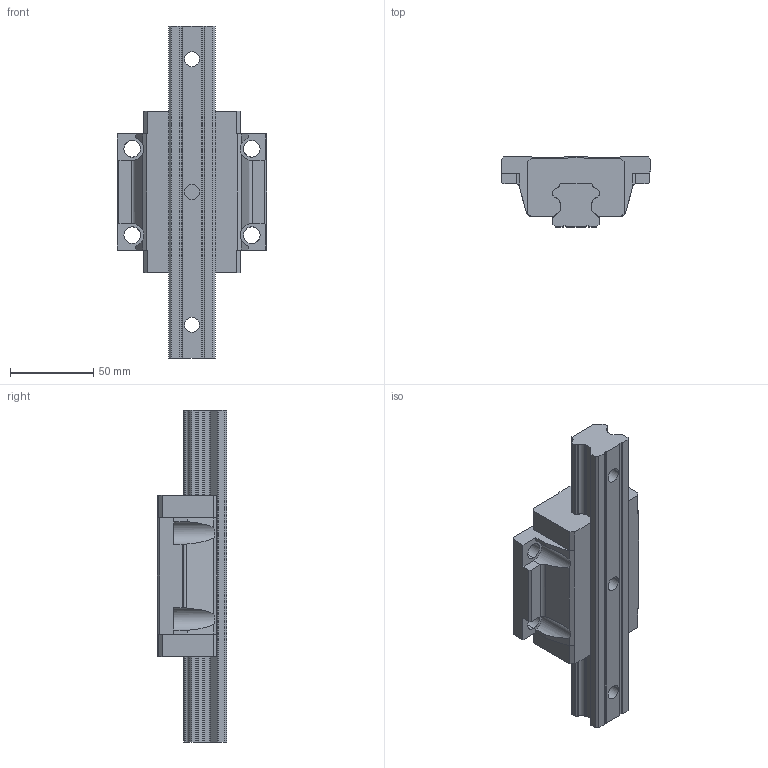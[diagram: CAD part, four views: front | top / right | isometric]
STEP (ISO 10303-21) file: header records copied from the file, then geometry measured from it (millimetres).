
FILE_DESCRIPTION (( 'STEP AP214' ), '1' );
FILE_NAME ('2.1004 Lineaarikelkka HGW30CC.STEP', '2025-09-19T06:40:46', ( '' ), ( '' ), 'SwSTEP 2.0', 'SolidWorks 2025', '' );
FILE_SCHEMA (( 'AUTOMOTIVE_DESIGN' ));
Length unit declared in the file: millimetre
Products named in the file (1): 2.1004 Lineaarikelkka HGW30CC
Bounding box: 90 x 42 x 200 mm (x, y, z)
Volume: 303960.4 mm3; surface area: 57204.3 mm2
Topology: 2 solids, 2 shells, 183 faces, 544 edges, 368 vertices
Faces by surface type: plane 115, cylinder 68
Entity records: 9272 total; most frequent: CARTESIAN_POINT 2400, ORIENTED_EDGE 1088, DIRECTION 886, EDGE_CURVE 544, VERTEX_POINT 368, LINE 360, VECTOR 360, AXIS2_PLACEMENT_3D 263
